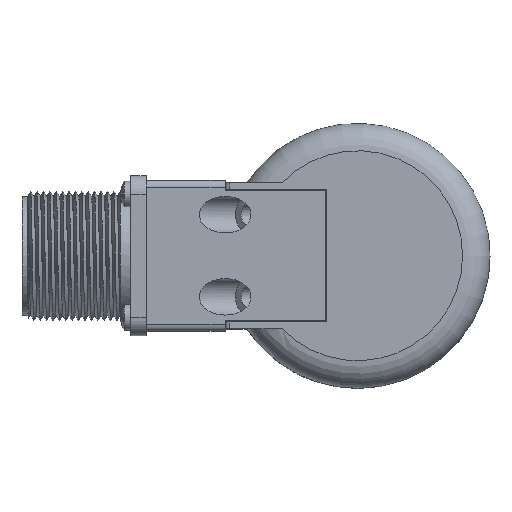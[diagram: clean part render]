
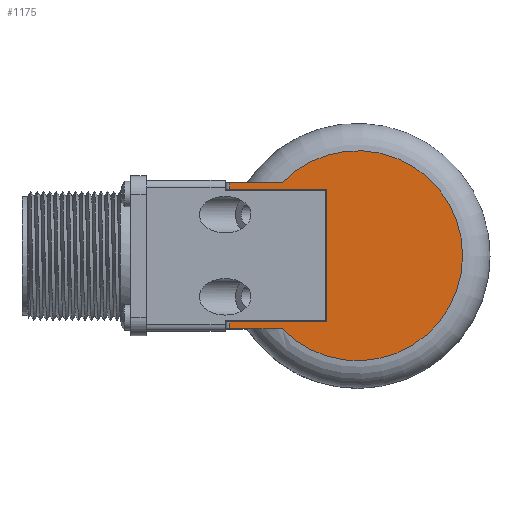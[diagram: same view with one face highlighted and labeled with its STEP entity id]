
A CAD part, top view. The second image highlights one B-rep face of the part: STEP entity #1175.
In plain terms, the highlighted planar face has unit normal (0, 0, 1).
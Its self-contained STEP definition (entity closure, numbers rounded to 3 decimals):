
#1175 = ADVANCED_FACE( '', ( #2813 ), #2814, .T. );
#2813 = FACE_OUTER_BOUND( '', #10637, .T. );
#2814 = PLANE( '', #10638 );
#10637 = EDGE_LOOP( '', ( #20872, #20873, #20874, #20875, #20876, #20877, #20878, #20879 ) );
#10638 = AXIS2_PLACEMENT_3D( '', #20880, #20881, #20882 );
#20872 = ORIENTED_EDGE( '', *, *, #23965, .T. );
#20873 = ORIENTED_EDGE( '', *, *, #25010, .T. );
#20874 = ORIENTED_EDGE( '', *, *, #24106, .T. );
#20875 = ORIENTED_EDGE( '', *, *, #25011, .T. );
#20876 = ORIENTED_EDGE( '', *, *, #25012, .F. );
#20877 = ORIENTED_EDGE( '', *, *, #24742, .F. );
#20878 = ORIENTED_EDGE( '', *, *, #25013, .T. );
#20879 = ORIENTED_EDGE( '', *, *, #25014, .T. );
#20880 = CARTESIAN_POINT( '', ( -29., 29., 49.9 ) );
#20881 = DIRECTION( '', ( 0., 0., 1. ) );
#20882 = DIRECTION( '', ( 0., -1., 0. ) );
#23965 = EDGE_CURVE( '', #26021, #26025, #26027, .T. );
#24106 = EDGE_CURVE( '', #26273, #26277, #26279, .T. );
#24742 = EDGE_CURVE( '', #27334, #27336, #27337, .T. );
#25010 = EDGE_CURVE( '', #26025, #26273, #27739, .T. );
#25011 = EDGE_CURVE( '', #26277, #27740, #27741, .T. );
#25012 = EDGE_CURVE( '', #27336, #27740, #27742, .T. );
#25013 = EDGE_CURVE( '', #27334, #27743, #27744, .T. );
#25014 = EDGE_CURVE( '', #27743, #26021, #27745, .T. );
#26021 = VERTEX_POINT( '', #29853 );
#26025 = VERTEX_POINT( '', #29869 );
#26027 = CIRCLE( '', #29883, 23. );
#26273 = VERTEX_POINT( '', #30416 );
#26277 = VERTEX_POINT( '', #30421 );
#26279 = LINE( '', #30423, #30424 );
#27334 = VERTEX_POINT( '', #33282 );
#27336 = VERTEX_POINT( '', #33284 );
#27337 = LINE( '', #33285, #33286 );
#27739 = LINE( '', #35035, #35036 );
#27740 = VERTEX_POINT( '', #35037 );
#27741 = LINE( '', #35038, #35039 );
#27742 = LINE( '', #35040, #35041 );
#27743 = VERTEX_POINT( '', #35042 );
#27744 = LINE( '', #35043, #35044 );
#27745 = LINE( '', #35045, #35046 );
#29853 = CARTESIAN_POINT( '', ( -16.523, -16., 49.9 ) );
#29869 = CARTESIAN_POINT( '', ( -16.523, 16., 49.9 ) );
#29883 = AXIS2_PLACEMENT_3D( '', #38241, #38242, #38243 );
#30416 = CARTESIAN_POINT( '', ( -28., 16., 49.9 ) );
#30421 = CARTESIAN_POINT( '', ( -28., 14.5, 49.9 ) );
#30423 = CARTESIAN_POINT( '', ( -28., 14.5, 49.9 ) );
#30424 = VECTOR( '', #38410, 1000. );
#33282 = CARTESIAN_POINT( '', ( -28., -14.5, 49.9 ) );
#33284 = CARTESIAN_POINT( '', ( -6.7, -14.5, 49.9 ) );
#33285 = CARTESIAN_POINT( '', ( -29., -14.5, 49.9 ) );
#33286 = VECTOR( '', #39178, 1000. );
#35035 = CARTESIAN_POINT( '', ( -29., 16., 49.9 ) );
#35036 = VECTOR( '', #39426, 1000. );
#35037 = CARTESIAN_POINT( '', ( -6.7, 14.5, 49.9 ) );
#35038 = CARTESIAN_POINT( '', ( -29., 14.5, 49.9 ) );
#35039 = VECTOR( '', #39427, 1000. );
#35040 = CARTESIAN_POINT( '', ( -6.7, -14.5, 49.9 ) );
#35041 = VECTOR( '', #39428, 1000. );
#35042 = CARTESIAN_POINT( '', ( -28., -16., 49.9 ) );
#35043 = CARTESIAN_POINT( '', ( -28., -16., 49.9 ) );
#35044 = VECTOR( '', #39429, 1000. );
#35045 = CARTESIAN_POINT( '', ( -24.187, -16., 49.9 ) );
#35046 = VECTOR( '', #39430, 1000. );
#38241 = CARTESIAN_POINT( '', ( 0., 0., 49.9 ) );
#38242 = DIRECTION( '', ( 0., 0., 1. ) );
#38243 = DIRECTION( '', ( 0., -1., 0. ) );
#38410 = DIRECTION( '', ( 0., -1., 0. ) );
#39178 = DIRECTION( '', ( 1., 0., 0. ) );
#39426 = DIRECTION( '', ( -1., 0., 0. ) );
#39427 = DIRECTION( '', ( 1., 0., 0. ) );
#39428 = DIRECTION( '', ( 0., 1., 0. ) );
#39429 = DIRECTION( '', ( 0., -1., 0. ) );
#39430 = DIRECTION( '', ( 1., 0., 0. ) );
